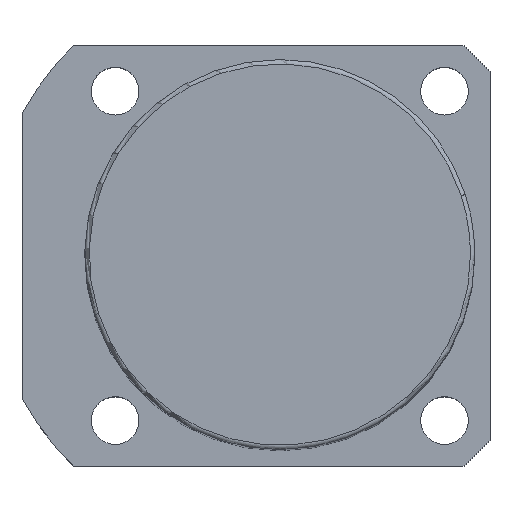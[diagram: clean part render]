
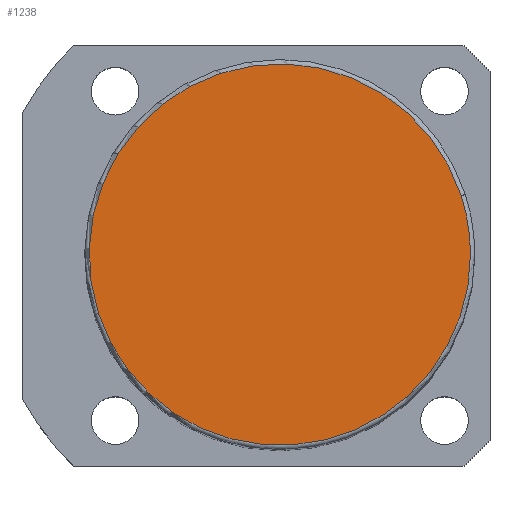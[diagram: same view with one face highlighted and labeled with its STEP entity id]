
A CAD part, top view. The second image highlights one B-rep face of the part: STEP entity #1238.
In plain terms, the highlighted planar face has unit normal (0, 0, 1).
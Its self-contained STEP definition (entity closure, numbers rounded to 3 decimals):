
#1171=CARTESIAN_POINT('',(41.846,13.597,186.5));
#1172=VERTEX_POINT('',#1171);
#1190=CARTESIAN_POINT('',(-41.846,-13.597,186.5));
#1191=VERTEX_POINT('',#1190);
#1199=CARTESIAN_POINT('',(0.0,0.0,186.5));
#1200=DIRECTION('',(0.0,0.0,1.0));
#1201=DIRECTION('',(1.0,0.0,0.0));
#1202=AXIS2_PLACEMENT_3D('',#1199,#1200,#1201);
#1203=CIRCLE('',#1202,44.0);
#1204=EDGE_CURVE('no 1763',#1172,#1191,#1203,.T.);
#1214=CARTESIAN_POINT('',(44.0,0.0,186.5));
#1215=VERTEX_POINT('',#1214);
#1216=CARTESIAN_POINT('',(0.0,0.0,186.5));
#1217=DIRECTION('',(0.0,0.0,1.0));
#1218=DIRECTION('',(1.0,0.0,0.0));
#1219=AXIS2_PLACEMENT_3D('',#1216,#1217,#1218);
#1220=CIRCLE('',#1219,44.0);
#1221=EDGE_CURVE('no 1772',#1215,#1172,#1220,.T.);
#1222=ORIENTED_EDGE('',*,*,#1221,.T.);
#1223=ORIENTED_EDGE('',*,*,#1204,.T.);
#1224=CARTESIAN_POINT('',(0.0,0.0,186.5));
#1225=DIRECTION('',(0.0,0.0,1.0));
#1226=DIRECTION('',(1.0,0.0,0.0));
#1227=AXIS2_PLACEMENT_3D('',#1224,#1225,#1226);
#1228=CIRCLE('',#1227,44.0);
#1229=EDGE_CURVE('no 1778',#1191,#1215,#1228,.T.);
#1230=ORIENTED_EDGE('',*,*,#1229,.T.);
#1231=EDGE_LOOP('',(#1222,#1223,#1230));
#1232=FACE_OUTER_BOUND('',#1231,.T.);
#1233=CARTESIAN_POINT('',(0.0,0.0,186.5));
#1234=DIRECTION('',(0.0,0.0,1.0));
#1235=DIRECTION('',(1.0,0.0,0.0));
#1236=AXIS2_PLACEMENT_3D('',#1233,#1234,#1235);
#1237=PLANE('',#1236);
#1238=ADVANCED_FACE('no 1765',(#1232),#1237,.T.);
